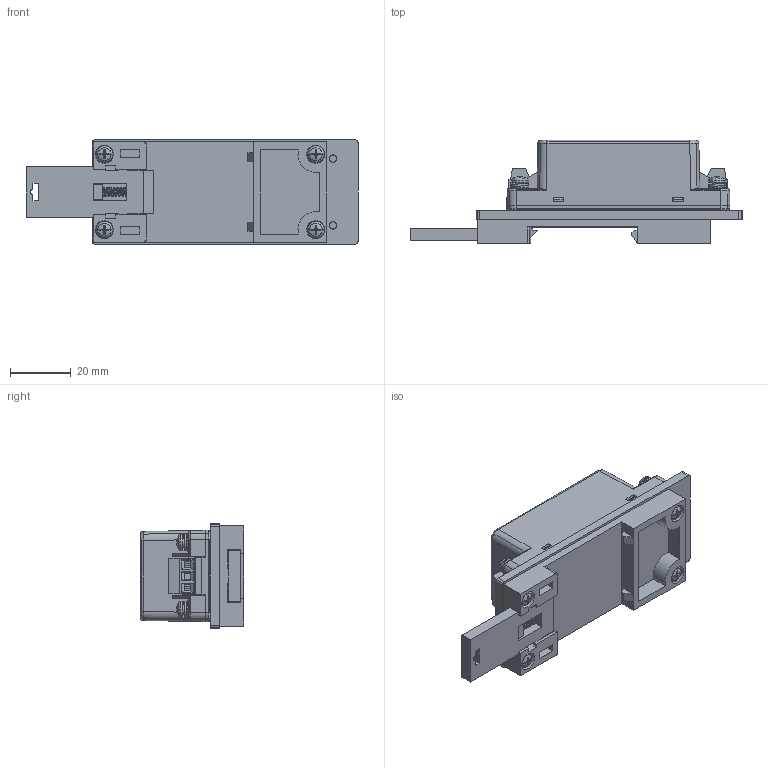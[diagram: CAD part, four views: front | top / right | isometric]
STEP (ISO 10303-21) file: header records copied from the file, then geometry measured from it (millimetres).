
FILE_DESCRIPTION (( 'STEP AP214' ), '1' );
FILE_NAME ('AMF-15S051C-AC-DIN-06.STEP', '2024-03-07T09:53:04', ( '' ), ( '' ), 'SwSTEP 2.0', 'SolidWorks 2021', '' );
FILE_SCHEMA (( 'AUTOMOTIVE_DESIGN' ));
Length unit declared in the file: millimetre
Products named in the file (8): AMF-15 Chassis DIN Rail Mounting(20240305)_default; AMF-15 Chassis 端子台(ANYTEK)-小顆出腳2PIN_default; AMF-15 Chassis  on CASE M3x0.5-12_default; AMF-15 Chassis Mounting with screw terminal_default; AMF-15S051C-AC-DIN-06; AMF-15 Chassis BASE_default; AMF-15 Chassis CASE_default; AMF-15 Chassis PCB_default
Assembly tree (11 placements, depth 3):
  AMF-15S051C-AC-DIN-06
    AMF-15 Chassis DIN Rail Mounting(20240305)_default
    AMF-15 Chassis Mounting with screw terminal_default
      AMF-15 Chassis CASE_default
      AMF-15 Chassis PCB_default
      AMF-15 Chassis BASE_default
      AMF-15 Chassis 端子台(ANYTEK)-小顆出腳2PIN_default  x2
    AMF-15 Chassis  on CASE M3x0.5-12_default  x4
Bounding box: 109.45 x 34.1 x 34.5 mm (x, y, z)
Volume: 61940.4 mm3; surface area: 38392.6 mm2
Topology: 33 solids, 52 shells, 1446 faces, 3759 edges, 2445 vertices
Faces by surface type: plane 791, cylinder 316, cone 140, bspline 105, torus 76, sphere 18
Full cylindrical faces by diameter (mm): 3.5 x8, 5.5 x8
Entity records: 56575 total; most frequent: CARTESIAN_POINT 15736, ORIENTED_EDGE 6024, DIRECTION 5447, EDGE_CURVE 3012, VERTEX_POINT 1975, LINE 1907, VECTOR 1907, AXIS2_PLACEMENT_3D 1770
